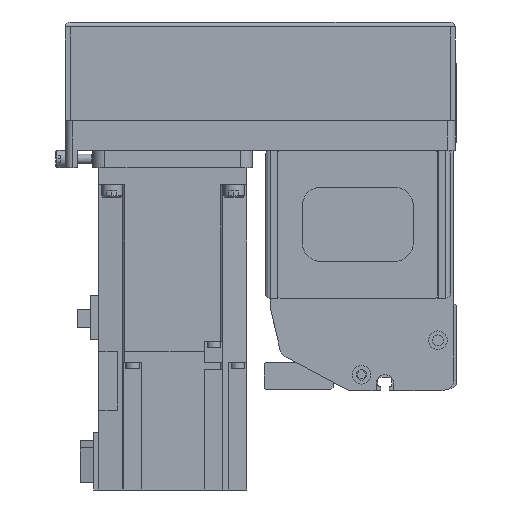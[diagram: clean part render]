
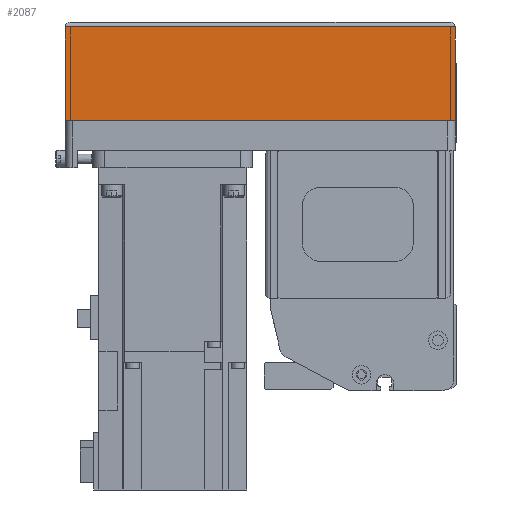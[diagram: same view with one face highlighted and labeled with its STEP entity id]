
A CAD part, left-side view. The second image highlights one B-rep face of the part: STEP entity #2087.
In plain terms, the highlighted planar face has unit normal (-1, 0, 0) as drawn and (0, 1, 0) by its records, which use the part's own axes.
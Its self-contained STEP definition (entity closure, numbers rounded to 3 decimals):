
#2087 = ADVANCED_FACE( '', ( #4775 ), #4776, .T. );
#4775 = FACE_OUTER_BOUND( '', #8144, .T. );
#4776 = PLANE( '', #8145 );
#8144 = EDGE_LOOP( '', ( #13999, #14000, #14001, #14002 ) );
#8145 = AXIS2_PLACEMENT_3D( '', #14003, #14004, #14005 );
#13999 = ORIENTED_EDGE( '', *, *, #21121, .F. );
#14000 = ORIENTED_EDGE( '', *, *, #21122, .F. );
#14001 = ORIENTED_EDGE( '', *, *, #21123, .T. );
#14002 = ORIENTED_EDGE( '', *, *, #20675, .T. );
#14003 = CARTESIAN_POINT( '', ( -158., 39., -50. ) );
#14004 = DIRECTION( '', ( 0., 1., 0. ) );
#14005 = DIRECTION( '', ( 0., 0., 1. ) );
#20675 = EDGE_CURVE( '', #24703, #25301, #25303, .T. );
#21121 = EDGE_CURVE( '', #24966, #25301, #25975, .T. );
#21122 = EDGE_CURVE( '', #25853, #24966, #25976, .T. );
#21123 = EDGE_CURVE( '', #25853, #24703, #25977, .T. );
#24703 = VERTEX_POINT( '', #30985 );
#24966 = VERTEX_POINT( '', #31408 );
#25301 = VERTEX_POINT( '', #31876 );
#25303 = LINE( '', #31879, #31880 );
#25853 = VERTEX_POINT( '', #32855 );
#25975 = LINE( '', #33031, #33032 );
#25976 = LINE( '', #33033, #33034 );
#25977 = LINE( '', #33035, #33036 );
#30985 = CARTESIAN_POINT( '', ( -158., 39., -12.1 ) );
#31408 = CARTESIAN_POINT( '', ( 0., 39., -50. ) );
#31876 = CARTESIAN_POINT( '', ( 0., 39., -12.1 ) );
#31879 = CARTESIAN_POINT( '', ( -158., 39., -12.1 ) );
#31880 = VECTOR( '', #37657, 1000. );
#32855 = CARTESIAN_POINT( '', ( -158., 39., -50. ) );
#33031 = CARTESIAN_POINT( '', ( 0., 39., -50. ) );
#33032 = VECTOR( '', #38192, 1000. );
#33033 = CARTESIAN_POINT( '', ( -158., 39., -50. ) );
#33034 = VECTOR( '', #38193, 1000. );
#33035 = CARTESIAN_POINT( '', ( -158., 39., -50. ) );
#33036 = VECTOR( '', #38194, 1000. );
#37657 = DIRECTION( '', ( 1., 0., 0. ) );
#38192 = DIRECTION( '', ( 0., 0., 1. ) );
#38193 = DIRECTION( '', ( 1., 0., 0. ) );
#38194 = DIRECTION( '', ( 0., 0., 1. ) );
